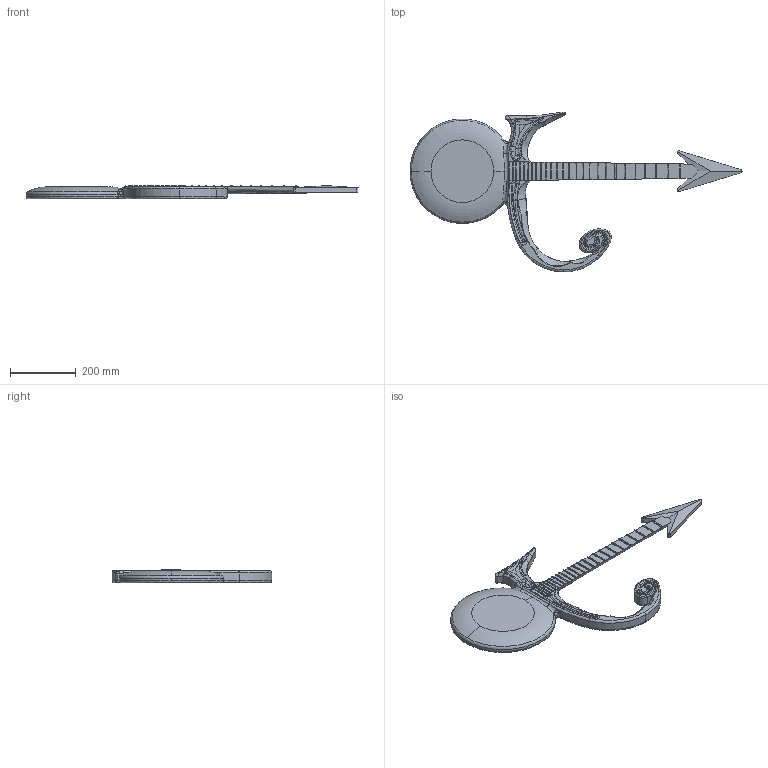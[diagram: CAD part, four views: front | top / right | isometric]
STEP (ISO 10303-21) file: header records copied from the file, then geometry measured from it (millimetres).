
FILE_DESCRIPTION (( 'STEP AP203' ), '1' );
FILE_NAME ('prince full Assem.STEP', '2017-09-13T17:45:45', ( '' ), ( '' ), 'SwSTEP 2.0', 'SolidWorks 2015', '' );
FILE_SCHEMA (( 'CONFIG_CONTROL_DESIGN' ));
Length unit declared in the file: inch
Products named in the file (3): PAJ_prince NECK; p1; prince full Assem
Assembly tree (2 placements, depth 2):
  prince full Assem
    p1
    PAJ_prince NECK
Bounding box: 1008.1 x 485.64 x 41.81 mm (x, y, z)
Volume: 4495492.2 mm3; surface area: 405504.2 mm2
Topology: 2 solids, 2 shells, 449 faces, 1187 edges, 732 vertices
Faces by surface type: bspline 197, torus 104, plane 80, cylinder 50, cone 16, sphere 2
Entity records: 24755 total; most frequent: CARTESIAN_POINT 15241, ORIENTED_EDGE 2352, DIRECTION 1371, EDGE_CURVE 1176, VERTEX_POINT 732, B_SPLINE_CURVE_WITH_KNOTS 563, AXIS2_PLACEMENT_3D 560, EDGE_LOOP 450
